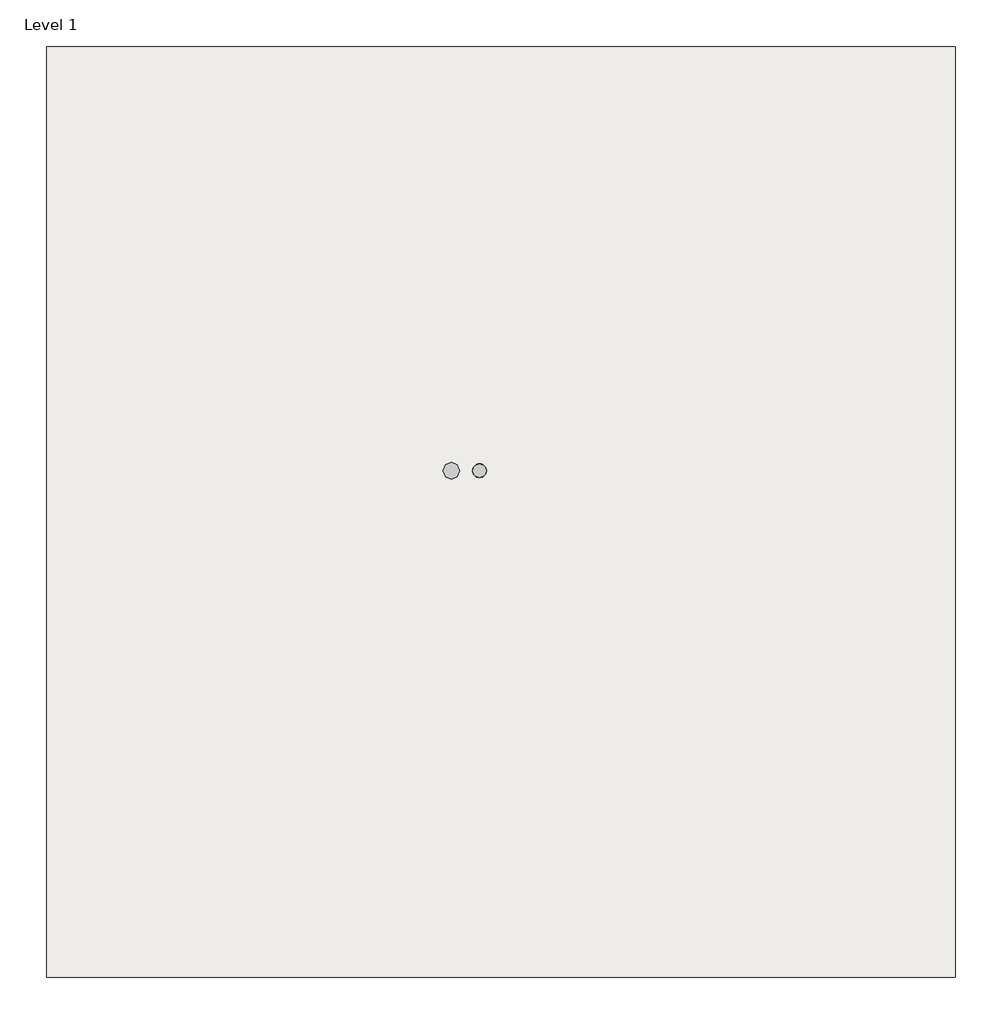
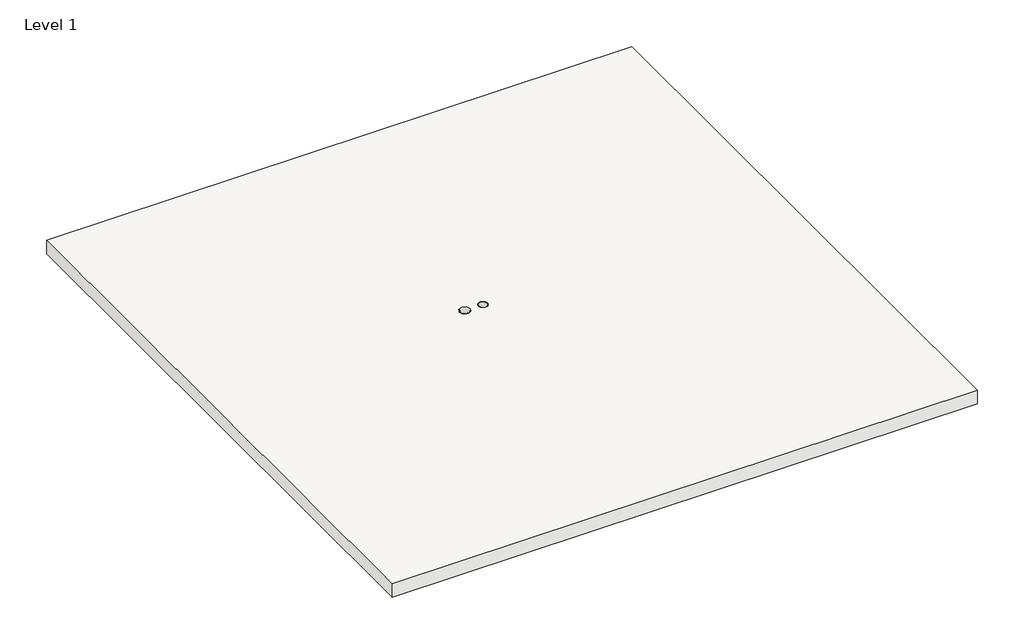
# One storey: 2 proxies, 1 slab.
"""IFC4 building model written with IfcOpenShell, lengths in millimetres."""

import ifcopenshell
import ifcopenshell.guid

model = None  # the IFC model being written
_history = None  # IfcOwnerHistory: only IFC2X3 demands one
_inside = {}  # id of a spatial element -> (the spatial element, [elements in it])
_under = {}  # id of a project, library or spatial element -> (it, [spatial elements below it])
_declared = {}  # id of a project -> (the project, [libraries it declares])
_typed = {}  # id of a type object -> (the type object, [elements of that type])
_made_of = {}  # id of a material, layer set ... -> (it, [elements and type objects made of it])


def new_model(schema):
    """Start an empty IFC model of exactly this schema.

    Asked for "IFC4X3", IfcOpenShell would pick the latest addendum, in which some entities
    have other attributes; the version numbers below select the first issue.
    IFC2X3 requires an IfcOwnerHistory on every rooted entity: one is made here for all.
    """
    global model, _history
    if schema == "IFC4X3":
        model = ifcopenshell.file(schema_version=(4, 3, 0, 0))
    else:
        model = ifcopenshell.file(schema=schema)
    _inside.clear()
    _under.clear()
    _declared.clear()
    _typed.clear()
    _made_of.clear()
    _history = None
    if model.schema == "IFC2X3":
        org = make("IfcOrganization", Name="unknown")
        user = make(
            "IfcPersonAndOrganization",
            ThePerson=make("IfcPerson", FamilyName="unknown"),
            TheOrganization=org,
        )
        app = make(
            "IfcApplication",
            ApplicationDeveloper=org,
            Version="unknown",
            ApplicationFullName="unknown",
            ApplicationIdentifier="unknown",
        )
        _history = make(
            "IfcOwnerHistory",
            OwningUser=user,
            OwningApplication=app,
            ChangeAction="ADDED",
            CreationDate=0,
        )
    return model


def make(cls, **values):
    """One entity of the class cls with the attributes given. An attribute that is None is left unset."""
    return model.create_entity(
        cls, **{name: value for name, value in values.items() if value is not None}
    )


def rooted(cls, **values):
    """An entity with a GlobalId (a new one), such as an element, a storey or a relation."""
    return make(cls, GlobalId=ifcopenshell.guid.new(), OwnerHistory=_history, **values)


def si_unit(unit_type, name, prefix=None):
    """IfcSIUnit, for example si_unit("LENGTHUNIT", "METRE", prefix="MILLI")."""
    return make("IfcSIUnit", UnitType=unit_type, Prefix=prefix, Name=name)


def assignment(units):
    """IfcUnitAssignment: the units of a project."""
    return None if units is None else make("IfcUnitAssignment", Units=units)


def point(xyz):
    """IfcCartesianPoint."""
    return None if xyz is None else make("IfcCartesianPoint", Coordinates=xyz)


def direction(xyz):
    """IfcDirection."""
    return None if xyz is None else make("IfcDirection", DirectionRatios=xyz)


def frame(location, z_axis=None, x_axis=None):
    """IfcAxis2Placement3D, a coordinate frame: its origin and axes. An axis left out is left unset."""
    return make(
        "IfcAxis2Placement3D",
        Location=point(location),
        Axis=direction(z_axis),
        RefDirection=direction(x_axis),
    )


def frame_2d(location, x_axis=None):
    """IfcAxis2Placement2D, a coordinate frame in the plane: its origin and x axis."""
    return make(
        "IfcAxis2Placement2D", Location=point(location), RefDirection=direction(x_axis)
    )


def origin():
    """The frame at (0, 0, 0) with its axes left unset."""
    return frame((0.0, 0.0, 0.0))


def origin_with_axes():
    """The frame at (0, 0, 0) with the z axis (0, 0, 1) and the x axis (1, 0, 0) written out."""
    return frame((0.0, 0.0, 0.0), z_axis=(0.0, 0.0, 1.0), x_axis=(1.0, 0.0, 0.0))


def origin_2d():
    """The frame at (0, 0) in the plane with its x axis left unset."""
    return frame_2d((0.0, 0.0))


def place(relative_to, where):
    """IfcLocalPlacement: puts the frame where relative to a parent placement (None: the world)."""
    return make(
        "IfcLocalPlacement", PlacementRelTo=relative_to, RelativePlacement=where
    )


def context(
    kind, dimensions, precision=None, world=None, true_north=None, identifier=None
):
    """IfcGeometricRepresentationContext, for example the 3D "Model" context."""
    return make(
        "IfcGeometricRepresentationContext",
        ContextIdentifier=identifier,
        ContextType=kind,
        CoordinateSpaceDimension=dimensions,
        Precision=precision,
        WorldCoordinateSystem=world,
        TrueNorth=true_north,
    )


def project(units=None, contexts=None):
    """IfcProject with its units and contexts."""
    return rooted(
        "IfcProject",
        Name="project",
        RepresentationContexts=contexts,
        UnitsInContext=assignment(units),
    )


def spatial(cls, under=None, at=None, **own):
    """A site, building, storey or space (cls), placed at a placement, below another one or the project."""
    s = rooted(cls, ObjectPlacement=at, **own)
    if under is not None:
        _under.setdefault(under.id(), (under, []))[1].append(s)
    return s


def polyline(points):
    """IfcPolyline through the points."""
    return make("IfcPolyline", Points=[point(p) for p in points])


def circle_curve(where, radius):
    """IfcCircle in the frame where."""
    return make("IfcCircle", Position=where, Radius=radius)


def trimmed(basis, trim1, trim2, sense, master):
    """IfcTrimmedCurve: the piece of a basis curve between two trims."""
    return make(
        "IfcTrimmedCurve",
        BasisCurve=basis,
        Trim1=trim1,
        Trim2=trim2,
        SenseAgreement=sense,
        MasterRepresentation=master,
    )


def segment(curve, same_sense, transition):
    """IfcCompositeCurveSegment."""
    return make(
        "IfcCompositeCurveSegment",
        Transition=transition,
        SameSense=same_sense,
        ParentCurve=curve,
    )


def composite_curve(segments, self_intersect=None):
    """IfcCompositeCurve: segments joined end to end."""
    return make("IfcCompositeCurve", Segments=segments, SelfIntersect=self_intersect)


def outline(outer, holes=None, kind="AREA"):
    """IfcArbitraryClosedProfileDef: a profile drawn as a closed curve; with holes, ...WithVoids."""
    if holes is None:
        return make("IfcArbitraryClosedProfileDef", ProfileType=kind, OuterCurve=outer)
    return make(
        "IfcArbitraryProfileDefWithVoids",
        ProfileType=kind,
        OuterCurve=outer,
        InnerCurves=holes,
    )


def extrude(swept, where, along, depth):
    """IfcExtrudedAreaSolid: the profile swept, set in the frame where, extruded along a direction by depth."""
    return make(
        "IfcExtrudedAreaSolid",
        SweptArea=swept,
        Position=where,
        ExtrudedDirection=direction(along),
        Depth=depth,
    )


def shape(context_of_items, identifier, shape_type, items):
    """IfcShapeRepresentation: the items that make up one representation, for example the "Body"."""
    return make(
        "IfcShapeRepresentation",
        ContextOfItems=context_of_items,
        RepresentationIdentifier=identifier,
        RepresentationType=shape_type,
        Items=items,
    )


def source(mapping_origin, context_of_items, identifier, shape_type, items):
    """IfcRepresentationMap: a shape defined once, which mapped items show again and again."""
    return make(
        "IfcRepresentationMap",
        MappingOrigin=mapping_origin,
        MappedRepresentation=shape(context_of_items, identifier, shape_type, items),
    )


def transform(
    local_origin,
    x_axis=None,
    y_axis=None,
    z_axis=None,
    scale=None,
    scale2=None,
    scale3=None,
    uniform=True,
):
    """IfcCartesianTransformationOperator3D, or its non-uniform kind. x_axis, y_axis, z_axis: its Axis1, 2, 3."""
    if uniform:
        return make(
            "IfcCartesianTransformationOperator3D",
            Axis1=direction(x_axis),
            Axis2=direction(y_axis),
            LocalOrigin=point(local_origin),
            Scale=scale,
            Axis3=direction(z_axis),
        )
    return make(
        "IfcCartesianTransformationOperator3DnonUniform",
        Axis1=direction(x_axis),
        Axis2=direction(y_axis),
        LocalOrigin=point(local_origin),
        Scale=scale,
        Axis3=direction(z_axis),
        Scale2=scale2,
        Scale3=scale3,
    )


def mapped(mapping_source, mapping_target):
    """IfcMappedItem: shows the shape of a source again, moved by a transform."""
    return make(
        "IfcMappedItem", MappingSource=mapping_source, MappingTarget=mapping_target
    )


def made_of(thing, what):
    """Note that an element or type object is made of a material, layer set ...; save() writes the relation."""
    if what is not None:
        _made_of.setdefault(what.id(), (what, []))[1].append(thing)
    return thing


def element(
    cls,
    number,
    at=None,
    inside=None,
    cuts=None,
    type_object=None,
    material=None,
    context=None,
    identifier="Body",
    shape_type=None,
    held_by="IfcProductDefinitionShape",
    body=None,
    shapes=None,
    **own,
):
    """One element of the class cls, such as IfcWall. Its Tag is "e" and its number.

    at: its placement. inside: the storey or other place that contains it. cuts: it is an
    opening in that element (IfcRelVoidsElement). A single representation is given by context,
    identifier, shape_type and body (its items); several are given by shapes. held_by: the class
    of the entity that holds the representations. save() writes the other relations.
    """
    e = rooted(cls, Tag="e%d" % number, ObjectPlacement=at, **own)
    if body is not None:
        shapes = [shape(context, identifier, shape_type, body)]
    if shapes is not None:
        e.Representation = make(held_by, Representations=shapes)
    if inside is not None:
        _inside.setdefault(inside.id(), (inside, []))[1].append(e)
    if cuts is not None:
        rooted(
            "IfcRelVoidsElement", RelatingBuildingElement=cuts, RelatedOpeningElement=e
        )
    if type_object is not None:
        _typed.setdefault(type_object.id(), (type_object, []))[1].append(e)
    return made_of(e, material)


def aggregate(whole, parts):
    """IfcRelAggregates: a whole, such as a stair, and the parts it consists of."""
    return rooted("IfcRelAggregates", RelatingObject=whole, RelatedObjects=parts)


def save(model, path):
    """Write the relations noted so far, then the file.

    IfcRelAggregates (storeys below a building ...), IfcRelContainedInSpatialStructure (elements
    in a storey), IfcRelDefinesByType, IfcRelAssociatesMaterial and IfcRelDeclares: one each for
    every whole, place, type object, material and project.
    """
    for whole, parts in _under.values():
        aggregate(whole, parts)
    for where, things in _inside.values():
        rooted(
            "IfcRelContainedInSpatialStructure",
            RelatedElements=things,
            RelatingStructure=where,
        )
    for kind, things in _typed.values():
        rooted("IfcRelDefinesByType", RelatedObjects=things, RelatingType=kind)
    for what, things in _made_of.values():
        rooted("IfcRelAssociatesMaterial", RelatedObjects=things, RelatingMaterial=what)
    for by, libraries in _declared.values():
        rooted("IfcRelDeclares", RelatingContext=by, RelatedDefinitions=libraries)
    model.write(path)


def plane_surface(at):
    """IfcPlane: the flat surface through the origin of the frame at, square to its z axis."""
    return make("IfcPlane", Position=at)


def cylinder_surface(at, radius):
    """IfcCylindricalSurface: all points at the distance radius from the z axis of the frame at."""
    return make("IfcCylindricalSurface", Position=at, Radius=radius)


def revolved_surface(curve, axis_point, axis_direction):
    """IfcSurfaceOfRevolution: the curve turned about the line through axis_point along axis_direction."""
    return make(
        "IfcSurfaceOfRevolution",
        SweptCurve=make("IfcArbitraryOpenProfileDef", ProfileType="CURVE", Curve=curve),
        AxisPosition=make("IfcAxis1Placement", Location=point(axis_point), Axis=direction(axis_direction)),
    )


def advanced_brep(points, edges, surfaces, faces):
    """IfcAdvancedBrep: a solid bounded by faces that lie on surfaces and meet in shared edges.

    An edge is (start, end): straight between two places in points (the first is 0);
    or (start, end, curve); or (start, end, curve, False) where it runs against its curve.
    A face is (place in surfaces, loops), or (place, loops, False) where it looks against
    its surface's normal. A loop lists edges by number (the first is 1), with a minus sign
    where the edge is run from its end to its start. The first loop is the outer one.
    """
    corners = [point(p) for p in points]
    vertices = [make("IfcVertexPoint", VertexGeometry=c) for c in corners]
    made = []
    for start, end, *more in edges:
        made.append(
            make(
                "IfcEdgeCurve",
                EdgeStart=vertices[start],
                EdgeEnd=vertices[end],
                EdgeGeometry=more[0] if more else make("IfcPolyline", Points=[corners[start], corners[end]]),
                SameSense=more[1] if len(more) > 1 else True,
            )
        )
    hull = []
    for where, loops, *sense in faces:
        bounds = []
        for j, loop in enumerate(loops):
            ring = [make("IfcOrientedEdge", EdgeElement=made[abs(k) - 1], Orientation=k > 0) for k in loop]
            bounds.append(
                make(
                    "IfcFaceOuterBound" if j == 0 else "IfcFaceBound",
                    Bound=make("IfcEdgeLoop", EdgeList=ring),
                    Orientation=True,
                )
            )
        hull.append(make("IfcAdvancedFace", Bounds=bounds, FaceSurface=surfaces[where], SameSense=sense[0] if sense else True))
    return make("IfcAdvancedBrep", Outer=make("IfcClosedShell", CfsFaces=hull))


def flush_bronze_83a69dee(model_context):
    return source(origin(), model_context, "Body", "SolidModel", [
        extrude(outline(composite_curve([segment(trimmed(circle_curve(origin_2d(), 117.475), [point((117.475, 0.0))], [point((-117.475, 0.0))], False, "CARTESIAN"), True, "CONTINUOUS"), segment(trimmed(circle_curve(origin_2d(), 117.475), [point((-117.475, 0.0))], [point((117.475, 0.0))], False, "CARTESIAN"), True, "CONTINUOUS")], self_intersect=False)), origin_with_axes(), (0.0, 0.0, 1.0), 4.318),
        advanced_brep(
        [(95.25, 0.0, -6.35), (-95.25, 0.0, -6.35), (-101.6, 0.0, -153.67), (101.6, 0.0, -153.67), (101.6, 0.0, -6.35), (-101.6, 0.0, -6.35), (-101.6, 0.0, 0.0), (101.6, 0.0, 0.0), (-95.25, 0.0, 0.0), (95.25, 0.0, 0.0)],
        [
            (0, 1, circle_curve(frame((0.0, 0.0, -6.35), z_axis=(0.0, 0.0, 1.0), x_axis=(1.0, 0.0, 0.0)), 95.25)),
            (1, 0, circle_curve(frame((0.0, 0.0, -6.35), z_axis=(0.0, 0.0, 1.0), x_axis=(1.0, 0.0, 0.0)), 95.25)),
            (2, 3, circle_curve(frame((0.0, 0.0, -153.67), z_axis=(0.0, 0.0, -1.0), x_axis=(1.0, 0.0, 0.0)), 101.6)),
            (3, 2, circle_curve(frame((0.0, 0.0, -153.67), z_axis=(0.0, 0.0, -1.0), x_axis=(1.0, 0.0, 0.0)), 101.6)),
            (3, 4),
            (4, 5, circle_curve(frame((0.0, 0.0, -6.35), z_axis=(0.0, 0.0, -1.0), x_axis=(1.0, 0.0, 0.0)), 101.6)),
            (5, 2),
            (5, 4, circle_curve(frame((0.0, 0.0, -6.35), z_axis=(0.0, 0.0, -1.0), x_axis=(1.0, 0.0, 0.0)), 101.6)),
            (6, 7, circle_curve(origin_with_axes(), 101.6)),
            (7, 6, circle_curve(origin_with_axes(), 101.6)),
            (8, 9, circle_curve(frame((0.0, 0.0, 0.0), z_axis=(0.0, 0.0, -1.0), x_axis=(1.0, 0.0, 0.0)), 95.25)),
            (9, 8, circle_curve(frame((0.0, 0.0, 0.0), z_axis=(0.0, 0.0, -1.0), x_axis=(1.0, 0.0, 0.0)), 95.25)),
            (6, 5),
            (4, 7),
            (8, 1),
            (0, 9),
        ],
        [
            plane_surface(frame((101.6, 0.0, -6.35), z_axis=(0.0, 0.0, 1.0), x_axis=(0.0, 1.0, 0.0))),
            plane_surface(frame((101.6, 0.0, -153.67), z_axis=(0.0, 0.0, -1.0), x_axis=(0.0, -1.0, 0.0))),
            cylinder_surface(frame((0.0, 0.0, -153.67), z_axis=(0.0, 0.0, 1.0), x_axis=(1.0, 0.0, 0.0)), 101.6),
            plane_surface(frame((101.6, 0.0, 0.0), z_axis=(0.0, 0.0, 1.0), x_axis=(0.0, 1.0, 0.0))),
            cylinder_surface(frame((0.0, 0.0, -6.35), z_axis=(0.0, 0.0, 1.0), x_axis=(1.0, 0.0, 0.0)), 101.6),
            revolved_surface(polyline([(95.25, 0.0, -6.35), (95.25, 0.0, 0.0)]), (0.0, 0.0, 0.0), (0.0, 0.0, -1.0)),
        ],
        [
            (0, [[1, 2]]),
            (1, [[3, 4]]),
            (2, [[-4, 5, 6, 7]]),
            (2, [[-3, -7, 8, -5]]),
            (3, [[9, 10], [11, 12]]),
            (4, [[-9, 13, -6, 14]]),
            (4, [[-10, -14, -8, -13]]),
            (5, [[-11, 15, -1, 16]]),
            (5, [[-12, -16, -2, -15]]),
        ],
    ),
        extrude(outline(polyline([(54.61, 82.55), (92.075, 34.036), (92.075, -34.036), (54.61, -82.55), (-54.61, -82.55), (-92.075, -34.036), (-92.075, 34.036), (-54.61, 82.55), (54.61, 82.55)])), frame((0.0, 0.0, -182.88), z_axis=(0.0, 0.0, 1.0), x_axis=(1.0, 0.0, 0.0)), (0.0, 0.0, 1.0), 29.21),
        extrude(outline(composite_curve([segment(trimmed(circle_curve(frame_2d((69.469, -0.229668)), 11.1252), [point((58.3438, -0.229668))], [point((80.5942, -0.229668))], False, "CARTESIAN"), True, "CONTINUOUS"), segment(trimmed(circle_curve(frame_2d((69.469, -0.229668)), 11.1252), [point((80.5942, -0.229668))], [point((58.3438, -0.229668))], False, "CARTESIAN"), True, "CONTINUOUS")], self_intersect=False)), frame((0.0, 0.0, -218.7956), z_axis=(0.0, 0.0, 1.0), x_axis=(1.0, 0.0, 0.0)), (0.0, 0.0, 1.0), 35.9156),
        extrude(outline(composite_curve([segment(trimmed(circle_curve(frame_2d((69.469, -0.229668)), 16.0528), [point((53.4162, -0.229668))], [point((85.5218, -0.229668))], False, "CARTESIAN"), True, "CONTINUOUS"), segment(trimmed(circle_curve(frame_2d((69.469, -0.229668)), 16.0528), [point((85.5218, -0.229668))], [point((53.4162, -0.229668))], False, "CARTESIAN"), True, "CONTINUOUS")], self_intersect=False)), frame((0.0, 0.0, -239.1156), z_axis=(0.0, 0.0, 1.0), x_axis=(1.0, 0.0, 0.0)), (0.0, 0.0, 1.0), 20.32),
        extrude(outline(polyline([(93.2688, 28.980332), (93.2688, -29.439668), (45.6692, -29.439668), (45.6692, 28.980332), (93.2688, 28.980332)])), frame((0.0, 0.0, -425.45), z_axis=(0.0, 0.0, 1.0), x_axis=(1.0, 0.0, 0.0)), (0.0, 0.0, 1.0), 186.3344),
    ])


def surface_nickel_841d07af(model_context):
    return source(origin(), model_context, "Body", "SolidModel", [
        advanced_brep(
        [(95.25, 0.0, -6.35), (-95.25, 0.0, -6.35), (-101.6, 0.0, -153.67), (101.6, 0.0, -153.67), (101.6, 0.0, -6.35), (-101.6, 0.0, -6.35), (-101.6, 0.0, 0.0), (101.6, 0.0, 0.0), (-95.25, 0.0, 0.0), (95.25, 0.0, 0.0)],
        [
            (0, 1, circle_curve(frame((0.0, 0.0, -6.35), z_axis=(0.0, 0.0, 1.0), x_axis=(1.0, 0.0, 0.0)), 95.25)),
            (1, 0, circle_curve(frame((0.0, 0.0, -6.35), z_axis=(0.0, 0.0, 1.0), x_axis=(1.0, 0.0, 0.0)), 95.25)),
            (2, 3, circle_curve(frame((0.0, 0.0, -153.67), z_axis=(0.0, 0.0, -1.0), x_axis=(1.0, 0.0, 0.0)), 101.6)),
            (3, 2, circle_curve(frame((0.0, 0.0, -153.67), z_axis=(0.0, 0.0, -1.0), x_axis=(1.0, 0.0, 0.0)), 101.6)),
            (3, 4),
            (4, 5, circle_curve(frame((0.0, 0.0, -6.35), z_axis=(0.0, 0.0, -1.0), x_axis=(1.0, 0.0, 0.0)), 101.6)),
            (5, 2),
            (5, 4, circle_curve(frame((0.0, 0.0, -6.35), z_axis=(0.0, 0.0, -1.0), x_axis=(1.0, 0.0, 0.0)), 101.6)),
            (6, 7, circle_curve(origin_with_axes(), 101.6)),
            (7, 6, circle_curve(origin_with_axes(), 101.6)),
            (8, 9, circle_curve(frame((0.0, 0.0, 0.0), z_axis=(0.0, 0.0, -1.0), x_axis=(1.0, 0.0, 0.0)), 95.25)),
            (9, 8, circle_curve(frame((0.0, 0.0, 0.0), z_axis=(0.0, 0.0, -1.0), x_axis=(1.0, 0.0, 0.0)), 95.25)),
            (6, 5),
            (4, 7),
            (8, 1),
            (0, 9),
        ],
        [
            plane_surface(frame((101.6, 0.0, -6.35), z_axis=(0.0, 0.0, 1.0), x_axis=(0.0, 1.0, 0.0))),
            plane_surface(frame((101.6, 0.0, -153.67), z_axis=(0.0, 0.0, -1.0), x_axis=(0.0, -1.0, 0.0))),
            cylinder_surface(frame((0.0, 0.0, -153.67), z_axis=(0.0, 0.0, 1.0), x_axis=(1.0, 0.0, 0.0)), 101.6),
            plane_surface(frame((101.6, 0.0, 0.0), z_axis=(0.0, 0.0, 1.0), x_axis=(0.0, 1.0, 0.0))),
            cylinder_surface(frame((0.0, 0.0, -6.35), z_axis=(0.0, 0.0, 1.0), x_axis=(1.0, 0.0, 0.0)), 101.6),
            revolved_surface(polyline([(95.25, 0.0, -6.35), (95.25, 0.0, 0.0)]), (0.0, 0.0, 0.0), (0.0, 0.0, -1.0)),
        ],
        [
            (0, [[1, 2]]),
            (1, [[3, 4]]),
            (2, [[-4, 5, 6, 7]]),
            (2, [[-3, -7, 8, -5]]),
            (3, [[9, 10], [11, 12]]),
            (4, [[-9, 13, -6, 14]]),
            (4, [[-10, -14, -8, -13]]),
            (5, [[-11, 15, -1, 16]]),
            (5, [[-12, -16, -2, -15]]),
        ],
    ),
        extrude(outline(polyline([(54.61, 82.55), (92.075, 34.036), (92.075, -34.036), (54.61, -82.55), (-54.61, -82.55), (-92.075, -34.036), (-92.075, 34.036), (-54.61, 82.55), (54.61, 82.55)])), frame((0.0, 0.0, -182.88), z_axis=(0.0, 0.0, 1.0), x_axis=(1.0, 0.0, 0.0)), (0.0, 0.0, 1.0), 29.21),
        extrude(outline(composite_curve([segment(trimmed(circle_curve(frame_2d((69.469, -0.229668)), 11.1252), [point((58.3438, -0.229668))], [point((80.5942, -0.229668))], False, "CARTESIAN"), True, "CONTINUOUS"), segment(trimmed(circle_curve(frame_2d((69.469, -0.229668)), 11.1252), [point((80.5942, -0.229668))], [point((58.3438, -0.229668))], False, "CARTESIAN"), True, "CONTINUOUS")], self_intersect=False)), frame((0.0, 0.0, -218.7956), z_axis=(0.0, 0.0, 1.0), x_axis=(1.0, 0.0, 0.0)), (0.0, 0.0, 1.0), 35.9156),
        extrude(outline(composite_curve([segment(trimmed(circle_curve(frame_2d((69.469, -0.229668)), 16.0528), [point((53.4162, -0.229668))], [point((85.5218, -0.229668))], False, "CARTESIAN"), True, "CONTINUOUS"), segment(trimmed(circle_curve(frame_2d((69.469, -0.229668)), 16.0528), [point((85.5218, -0.229668))], [point((53.4162, -0.229668))], False, "CARTESIAN"), True, "CONTINUOUS")], self_intersect=False)), frame((0.0, 0.0, -239.1156), z_axis=(0.0, 0.0, 1.0), x_axis=(1.0, 0.0, 0.0)), (0.0, 0.0, 1.0), 20.32),
        extrude(outline(polyline([(93.2688, 28.980332), (93.2688, -29.439668), (45.6692, -29.439668), (45.6692, 28.980332), (93.2688, 28.980332)])), frame((0.0, 0.0, -409.575), z_axis=(0.0, 0.0, 1.0), x_axis=(1.0, 0.0, 0.0)), (0.0, 0.0, 1.0), 170.4594),
    ])


model = new_model("IFC4")

# Units and contexts
model_context = context("Model", 3, world=origin())
ifc_project = project(units=[si_unit("LENGTHUNIT", "METRE", prefix="MILLI")], contexts=[model_context])

# Site, building, storey
site = spatial("IfcSite", under=ifc_project)
building = spatial("IfcBuilding", under=site)
storey = spatial("IfcBuildingStorey", under=building, Name="Level 1", Elevation=0.0)

# Proxies
placement = place(None, origin())
flush_bronze_shape = flush_bronze_83a69dee(model_context)
element("IfcBuildingElementProxy", 1, Name="Poke_Thru_Device-Evolution_8AT_Series-Wiremold-Assembly : Flush-Bronze", ObjectType="Poke_Thru_Device-Evolution_8AT_Series-Wiremold-Assembly : Flush-Bronze", at=placement, inside=storey, context=model_context, shape_type="MappedRepresentation", body=[
    mapped(flush_bronze_shape, transform((-7698.0992549, -4374.9239152, 0.0), x_axis=(1.0, 0.0, 0.0), y_axis=(0.0, 1.0, 0.0), z_axis=(0.0, 0.0, 1.0))),
])
surface_nickel_shape = surface_nickel_841d07af(model_context)
element("IfcBuildingElementProxy", 2, Name="Poke_Thru_Device-Evolution_8AT_Series-Wiremold-Assembly : Surface-Nickel", ObjectType="Poke_Thru_Device-Evolution_8AT_Series-Wiremold-Assembly : Surface-Nickel", at=placement, inside=storey, context=model_context, shape_type="MappedRepresentation", body=[
    mapped(surface_nickel_shape, transform((-7305.885226, -4374.9239152, 0.0), x_axis=(0.0, 1.0, 0.0), y_axis=(-1.0, 0.0, 0.0), z_axis=(0.0, 0.0, 1.0))),
])

# Slab
element("IfcSlab", 3, ObjectType="Generic - 12\"", at=placement, inside=storey, context=model_context, shape_type="AdvancedBrep", body=[
    advanced_brep(
    [(-684.3512413, 1527.3905092, -304.8), (-684.3512413, -11426.6094908, -304.8), (-13333.5512413, -11426.6094908, -304.8), (-13333.5512413, 1527.3905092, -304.8), (-684.3512413, -11426.6094908, 0.0), (-684.3512413, 1527.3905092, 0.0), (-13333.5512413, 1527.3905092, 0.0), (-13333.5512413, -11426.6094908, 0.0), (-7305.885226, -4278.6164773, 0.0), (-7305.885226, -4471.2313532, 0.0), (-7305.885226, -4471.2313532, -12.7), (-7305.885226, -4278.6164773, -12.7)],
    [
        (0, 1),
        (1, 2),
        (2, 3),
        (3, 0),
        (4, 5),
        (5, 6),
        (6, 7),
        (7, 4),
        (8, 9, circle_curve(frame((-7305.885226, -4374.9239152, 0.0), z_axis=(0.0, 0.0, -1.0), x_axis=(0.0, 1.0, 0.0)), 96.3074379)),
        (9, 8, circle_curve(frame((-7305.885226, -4374.9239152, 0.0), z_axis=(0.0, 0.0, -1.0), x_axis=(0.0, 1.0, 0.0)), 96.3074379)),
        (0, 5),
        (4, 1),
        (7, 2),
        (6, 3),
        (10, 11, circle_curve(frame((-7305.885226, -4374.9239152, -12.7), z_axis=(0.0, 0.0, 1.0), x_axis=(0.0, 1.0, 0.0)), 96.3074379)),
        (11, 10, circle_curve(frame((-7305.885226, -4374.9239152, -12.7), z_axis=(0.0, 0.0, 1.0), x_axis=(0.0, 1.0, 0.0)), 96.3074379)),
        (10, 9),
        (8, 11),
    ],
    [
        plane_surface(frame((-684.3512413, 1527.3905092, -304.8), z_axis=(0.0, 0.0, -1.0), x_axis=(0.0, -1.0, 0.0))),
        plane_surface(frame((-684.3512413, 1527.3905092, 0.0), z_axis=(0.0, 0.0, 1.0), x_axis=(0.0, 1.0, 0.0))),
        plane_surface(frame((-684.3512413, 1527.3905092, -304.8), z_axis=(1.0, 0.0, 0.0), x_axis=(0.0, 0.0, 1.0))),
        plane_surface(frame((-684.3512413, -11426.6094908, -304.8), z_axis=(0.0, -1.0, 0.0), x_axis=(0.0, 0.0, 1.0))),
        plane_surface(frame((-13333.5512413, -11426.6094908, -304.8), z_axis=(-1.0, 0.0, 0.0), x_axis=(0.0, 0.0, 1.0))),
        plane_surface(frame((-13333.5512413, 1527.3905092, -304.8), z_axis=(0.0, 1.0, 0.0), x_axis=(0.0, 0.0, 1.0))),
        plane_surface(frame((-7305.885226, -4278.6164773, -12.7), z_axis=(0.0, 0.0, 1.0), x_axis=(1.0, 0.0, 0.0))),
        revolved_surface(polyline([(-7305.885226, -4278.6164773, 0.0), (-7305.885226, -4278.6164773, -12.7)]), (-7305.885226, -4374.9239152, -12.7), (0.0, 0.0, 1.0)),
    ],
    [
        (0, [[1, 2, 3, 4]]),
        (1, [[5, 6, 7, 8], [9, 10]]),
        (2, [[-1, 11, -5, 12]]),
        (3, [[-2, -12, -8, 13]]),
        (4, [[-3, -13, -7, 14]]),
        (5, [[-4, -14, -6, -11]]),
        (6, [[15, 16]]),
        (7, [[-15, 17, -9, 18]]),
        (7, [[-16, -18, -10, -17]]),
    ],
),
])

save(model, "model.ifc")
